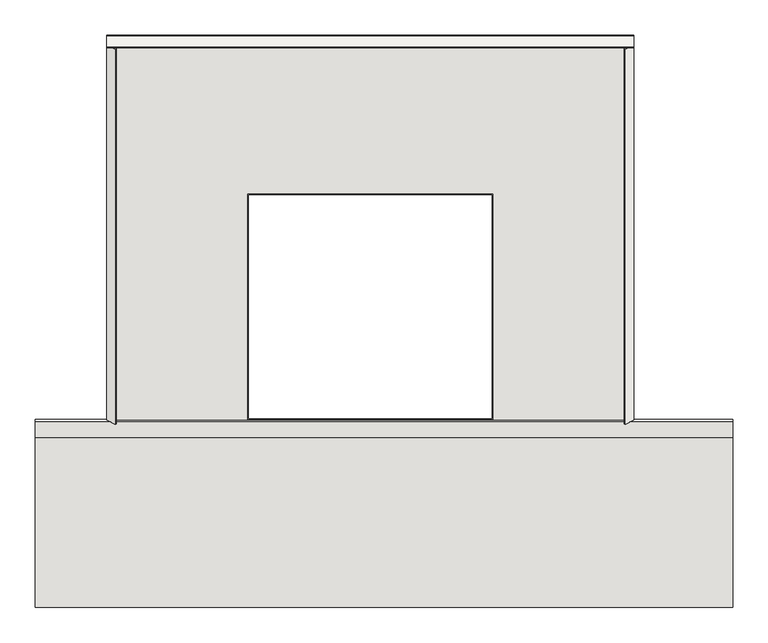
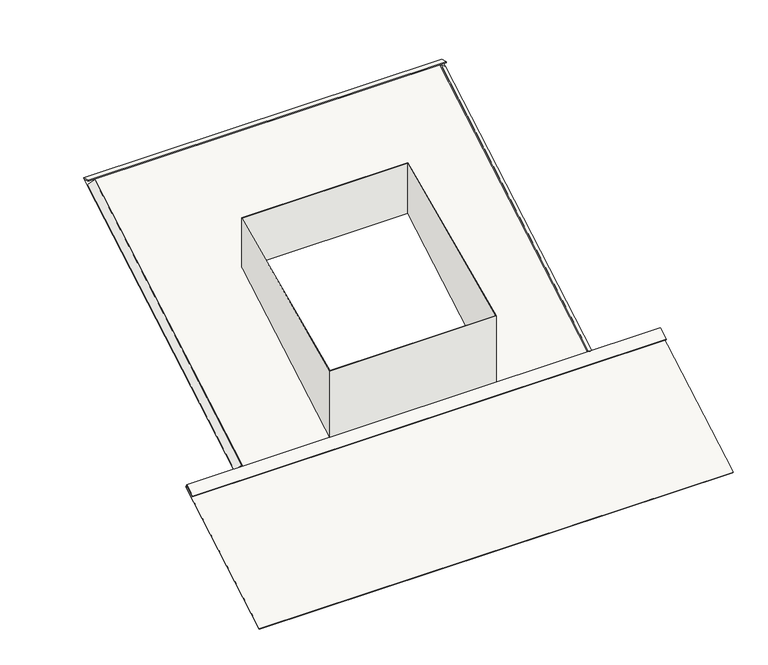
"""IFC4 building model written with IfcOpenShell, lengths in millimetres: covering geometry, DERS_420_AM_AEB_Mini Delta_concealedgutter_M&G : concealedgutter Mini-Delta."""

from ifc_helpers import new_model, si_unit, frame, origin, place, context, project, spatial, polyline, outline, extrude, faceted_brep, source, transform, mapped, element, save


def covering_284e0093(model_context):
    return source(origin(), model_context, "Body", "SolidModel", [
        faceted_brep([(-300.991448, -126.991448, 150.5880553), (-300.991448, -126.991448, 0.7505553), (-300.991448, 190.408552, 184.0015308), (-300.991448, 190.408552, 294.1640308), (44.408552, -126.991448, 150.5880553), (44.408552, -126.991448, 0.7505553), (44.408552, 190.408552, 294.1640308), (44.408552, 190.408552, 184.0015308), (-302.291448, 191.708552, 294.7520861), (-302.291448, 191.708552, 184.7520861), (-302.291448, -128.291448, 0.0), (-302.291448, -128.291448, 150.0), (45.708552, -128.291448, 0.0), (45.708552, -128.291448, 150.0), (45.708552, 191.708552, 184.7520861), (45.708552, 191.708552, 294.7520861)], [[[0, 1, 2, 3]], [[1, 0, 4, 5]], [[5, 4, 6, 7]], [[7, 6, 3, 2]], [[8, 9, 10, 11]], [[11, 10, 12, 13]], [[13, 12, 14, 15]], [[9, 8, 15, 14]], [[10, 9, 14, 12], [2, 1, 5, 7]], [[8, 11, 13, 15], [0, 3, 6, 4]]]),
        faceted_brep([(-502.291448, -129.191448, 1.5588457), (-502.291448, -128.291448, 0.0), (245.708552, -128.291448, 0.0), (245.708552, -129.191448, 1.5588457), (233.6877368, -135.2018556, 11.9691771), (232.4149445, -134.5654595, 10.8669067), (243.1629676, -129.191448, 1.5588457), (-499.7458636, -129.191448, 1.5588457), (-488.9978405, -134.5654595, 10.8669067), (-490.2706327, -135.2018556, 11.9691771), (245.708552, 416.4045564, 316.5588457), (245.708552, 417.3045564, 315.0), (-502.291448, 417.3045564, 315.0), (-502.291448, 416.4045564, 316.5588457), (243.1629676, 403.4141754, 309.0588457), (245.708552, 403.4141754, 309.0588457), (245.708552, 414.2000156, 315.2860535), (-502.291448, 414.2000156, 315.2860535), (-502.291448, 403.4141754, 309.0588457), (-499.7458636, 403.4141754, 309.0588457), (44.408552, -126.991448, 2.8290163), (-300.991448, -126.991448, 2.8290163), (-300.991448, 190.408552, 186.0799918), (44.408552, 190.408552, 186.0799918), (-502.291448, 404.3141754, 307.5), (-300.991448, -126.991448, 0.7505553), (44.408552, -126.991448, 0.7505553), (44.408552, 190.408552, 184.0015308), (-300.991448, 190.408552, 184.0015308), (-502.291448, 399.5179431, 319.220103), (-502.291448, 399.9838174, 320.9587695), (245.708552, 399.9838174, 320.9587695), (245.708552, 399.5179431, 319.220103), (232.4149445, 398.0401638, 318.3669067), (233.6877368, 397.4037677, 319.4691771), (-490.2706327, 397.4037677, 319.4691771), (-488.9978405, 398.0401638, 318.3669067)], [[[0, 1, 2, 3, 4, 5, 6, 7, 8, 9]], [[10, 11, 12, 13]], [[14, 15, 16, 17, 18, 19, 7, 6], [20, 21, 22, 23]], [[12, 11, 2, 1, 24], [25, 26, 27, 28]], [[1, 0, 18, 17, 29, 30, 13, 12, 24]], [[3, 2, 11, 10, 31, 32, 16, 15]], [[25, 21, 20, 26]], [[26, 20, 23, 27]], [[27, 23, 22, 28]], [[21, 25, 28, 22]], [[31, 10, 13, 30]], [[32, 31, 30, 29]], [[32, 29, 17, 16]], [[33, 34, 15, 14]], [[4, 3, 15, 34]], [[5, 4, 34, 33]], [[5, 33, 14, 6]], [[18, 35, 36, 19]], [[0, 9, 35, 18]], [[9, 8, 36, 35]], [[36, 8, 7, 19]]]),
        extrude(outline(polyline([(-153.0420831, -7.1306425), (-153.9420831, -5.5717968), (-132.291448, 6.9282032), (-128.291448, 0.0), (-394.5942596, -153.75), (-395.4942596, -152.1911543), (-130.7502937, 0.6588457), (-132.9502937, 4.4693575), (-153.0420831, -7.1306425)])), frame((-603.8654275, 0.0, 0.0), z_axis=(1.0, 0.0, 0.0), x_axis=(0.0, 1.0, 0.0)), (0.0, 0.0, 1.0), 990.0739795),
    ])


if __name__ == "__main__":
    model = new_model("IFC4")
    model_context = context("Model", 3, world=origin())
    ifc_project = project(units=[si_unit("LENGTHUNIT", "METRE", prefix="MILLI")], contexts=[model_context])
    site = spatial("IfcSite", under=ifc_project)
    building = spatial("IfcBuilding", under=site)
    placement = place(None, origin())
    covering_shape = covering_284e0093(model_context)
    element("IfcCovering", 1, ObjectType="DERS_420_AM_AEB_Mini Delta_concealedgutter_M&G : concealedgutter Mini-Delta", at=placement, inside=building, context=model_context, shape_type="MappedRepresentation", body=[
        mapped(covering_shape, transform((0.0, 0.0, 0.0), x_axis=(1.0, 0.0, 0.0), y_axis=(0.0, 1.0, 0.0), z_axis=(0.0, 0.0, 1.0))),
    ])
    save(model, "model.ifc")
